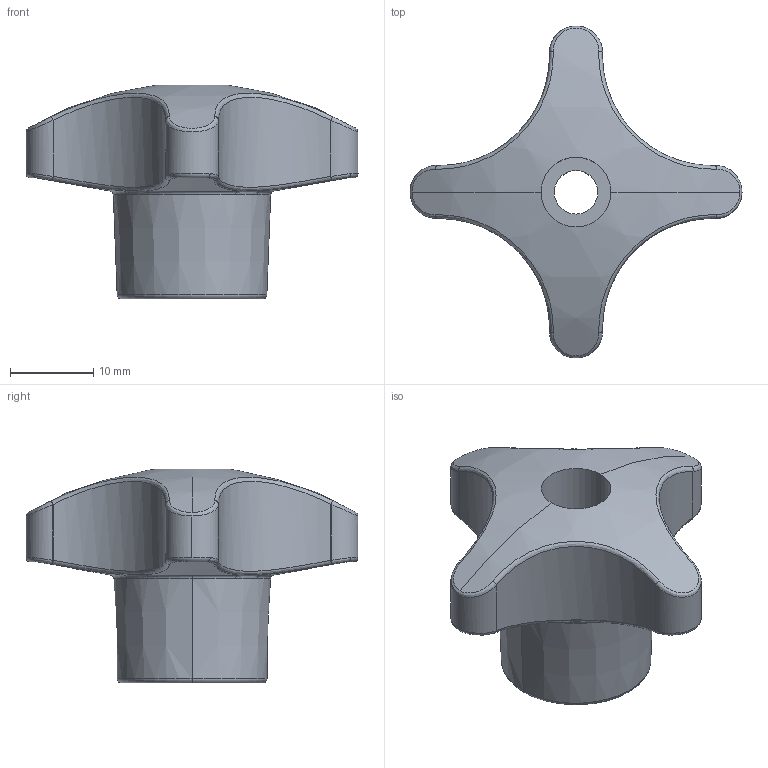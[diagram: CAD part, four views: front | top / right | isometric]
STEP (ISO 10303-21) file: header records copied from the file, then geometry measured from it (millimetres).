
FILE_DESCRIPTION (( 'STEP AP214' ), '1' );
FILE_NAME ('1121 40 402.STEP', '2010-11-26T15:46:31', ( 'Marc' ), ( '' ), 'SwSTEP 2.0', 'SolidWorks 2010', '' );
FILE_SCHEMA (( 'AUTOMOTIVE_DESIGN' ));
Length unit declared in the file: millimetre
Products named in the file (1): 1121 40 402
Bounding box: 40 x 39.99 x 25.77 mm (x, y, z)
Volume: 9115 mm3; surface area: 4790.2 mm2
Topology: 2 solids, 2 shells, 81 faces, 197 edges, 121 vertices
Faces by surface type: cylinder 25, bspline 24, torus 12, cone 9, plane 9, sphere 2
Entity records: 7537 total; most frequent: CARTESIAN_POINT 5669, ORIENTED_EDGE 394, DIRECTION 314, EDGE_CURVE 197, AXIS2_PLACEMENT_3D 142, VERTEX_POINT 121, EDGE_LOOP 86, CIRCLE 84
